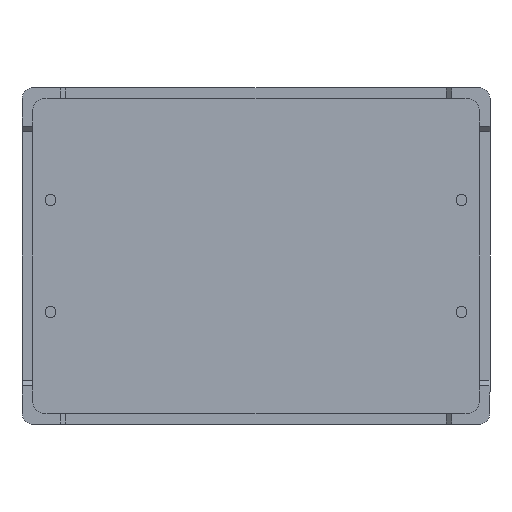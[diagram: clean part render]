
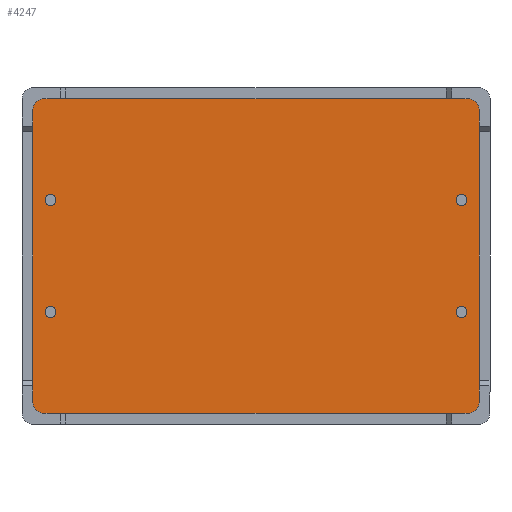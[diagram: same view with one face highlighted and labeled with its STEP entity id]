
A CAD part, front view. The second image highlights one B-rep face of the part: STEP entity #4247.
In plain terms, the highlighted planar face has unit normal (0, -1, 0).
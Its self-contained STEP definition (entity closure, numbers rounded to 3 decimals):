
#9 = VERTEX_POINT ( 'NONE', #1152 ) ;
#12 = EDGE_CURVE ( 'NONE', #3469, #3469, #1104, .T. ) ;
#70 = ORIENTED_EDGE ( 'NONE', *, *, #3678, .T. ) ;
#138 = DIRECTION ( 'NONE',  ( 0., -1., 0. ) ) ;
#208 = ORIENTED_EDGE ( 'NONE', *, *, #3375, .T. ) ;
#226 = CARTESIAN_POINT ( 'NONE',  ( 20.35, 1., -13.35 ) ) ;
#231 = VERTEX_POINT ( 'NONE', #2503 ) ;
#243 = DIRECTION ( 'NONE',  ( 1., 0., 0. ) ) ;
#284 = AXIS2_PLACEMENT_3D ( 'NONE', #704, #2988, #1042 ) ;
#303 = EDGE_CURVE ( 'NONE', #9, #9, #2831, .T. ) ;
#333 = DIRECTION ( 'NONE',  ( 0., -1., 0. ) ) ;
#389 = FACE_BOUND ( 'NONE', #2246, .T. ) ;
#442 = EDGE_CURVE ( 'NONE', #1611, #2284, #4063, .T. ) ;
#453 = DIRECTION ( 'NONE',  ( 0., 0., -1. ) ) ;
#464 = DIRECTION ( 'NONE',  ( 0., -1., 0. ) ) ;
#475 = CARTESIAN_POINT ( 'NONE',  ( 18.75, 1., -5.1 ) ) ;
#544 = AXIS2_PLACEMENT_3D ( 'NONE', #2290, #333, #2617 ) ;
#611 = DIRECTION ( 'NONE',  ( 0., -1., 0. ) ) ;
#614 = CIRCLE ( 'NONE', #544, 1. ) ;
#617 = VERTEX_POINT ( 'NONE', #1754 ) ;
#686 = AXIS2_PLACEMENT_3D ( 'NONE', #2864, #913, #3193 ) ;
#704 = CARTESIAN_POINT ( 'NONE',  ( -18.75, 1., 5.1 ) ) ;
#912 = ORIENTED_EDGE ( 'NONE', *, *, #3905, .F. ) ;
#913 = DIRECTION ( 'NONE',  ( 0., -1., 0. ) ) ;
#918 = CIRCLE ( 'NONE', #284, 0.5 ) ;
#981 = EDGE_CURVE ( 'NONE', #2641, #231, #1652, .T. ) ;
#1019 = ORIENTED_EDGE ( 'NONE', *, *, #2278, .T. ) ;
#1042 = DIRECTION ( 'NONE',  ( 0., 0., -1. ) ) ;
#1104 = CIRCLE ( 'NONE', #2806, 0.5 ) ;
#1105 = CARTESIAN_POINT ( 'NONE',  ( 19.35, 1., 14.35 ) ) ;
#1116 = ORIENTED_EDGE ( 'NONE', *, *, #3241, .T. ) ;
#1145 = DIRECTION ( 'NONE',  ( 0., 0., 1. ) ) ;
#1152 = CARTESIAN_POINT ( 'NONE',  ( 18.75, 1., 4.6 ) ) ;
#1203 = AXIS2_PLACEMENT_3D ( 'NONE', #2563, #611, #2895 ) ;
#1260 = CARTESIAN_POINT ( 'NONE',  ( -19.35, 1., 14.35 ) ) ;
#1345 = DIRECTION ( 'NONE',  ( 0., 0., -1. ) ) ;
#1423 = DIRECTION ( 'NONE',  ( 0., -1., 0. ) ) ;
#1479 = CIRCLE ( 'NONE', #4192, 1. ) ;
#1495 = CARTESIAN_POINT ( 'NONE',  ( -19.35, 1., -14.35 ) ) ;
#1564 = CARTESIAN_POINT ( 'NONE',  ( -20.35, 1., -14.35 ) ) ;
#1611 = VERTEX_POINT ( 'NONE', #1105 ) ;
#1629 = VERTEX_POINT ( 'NONE', #4089 ) ;
#1639 = EDGE_LOOP ( 'NONE', ( #2533 ) ) ;
#1643 = EDGE_LOOP ( 'NONE', ( #912 ) ) ;
#1652 = LINE ( 'NONE', #2959, #2509 ) ;
#1709 = DIRECTION ( 'NONE',  ( 0., -1., 0. ) ) ;
#1741 = EDGE_LOOP ( 'NONE', ( #3410 ) ) ;
#1749 = DIRECTION ( 'NONE',  ( 0., -1., 0. ) ) ;
#1754 = CARTESIAN_POINT ( 'NONE',  ( 20.35, 1., 13.35 ) ) ;
#1804 = CARTESIAN_POINT ( 'NONE',  ( -18.75, 1., -5.6 ) ) ;
#1980 = ORIENTED_EDGE ( 'NONE', *, *, #442, .T. ) ;
#2132 = FACE_BOUND ( 'NONE', #1741, .T. ) ;
#2145 = CARTESIAN_POINT ( 'NONE',  ( -18.75, 1., -5.1 ) ) ;
#2193 = LINE ( 'NONE', #3405, #2294 ) ;
#2198 = VERTEX_POINT ( 'NONE', #1495 ) ;
#2246 = EDGE_LOOP ( 'NONE', ( #4290 ) ) ;
#2278 = EDGE_CURVE ( 'NONE', #2198, #3716, #2657, .T. ) ;
#2284 = VERTEX_POINT ( 'NONE', #1260 ) ;
#2290 = CARTESIAN_POINT ( 'NONE',  ( -19.35, 1., 13.35 ) ) ;
#2294 = VECTOR ( 'NONE', #1145, 1000. ) ;
#2317 = VECTOR ( 'NONE', #3928, 1000. ) ;
#2469 = DIRECTION ( 'NONE',  ( 0., 0., -1. ) ) ;
#2485 = VERTEX_POINT ( 'NONE', #1804 ) ;
#2503 = CARTESIAN_POINT ( 'NONE',  ( -20.35, 1., -13.35 ) ) ;
#2509 = VECTOR ( 'NONE', #1345, 1000. ) ;
#2533 = ORIENTED_EDGE ( 'NONE', *, *, #303, .F. ) ;
#2563 = CARTESIAN_POINT ( 'NONE',  ( 18.75, 1., 5.1 ) ) ;
#2617 = DIRECTION ( 'NONE',  ( 0., 0., -1. ) ) ;
#2641 = VERTEX_POINT ( 'NONE', #4076 ) ;
#2657 = LINE ( 'NONE', #1564, #3640 ) ;
#2706 = PLANE ( 'NONE',  #3147 ) ;
#2736 = ORIENTED_EDGE ( 'NONE', *, *, #3463, .T. ) ;
#2806 = AXIS2_PLACEMENT_3D ( 'NONE', #475, #464, #453 ) ;
#2831 = CIRCLE ( 'NONE', #1203, 0.5 ) ;
#2849 = ORIENTED_EDGE ( 'NONE', *, *, #3021, .T. ) ;
#2857 = CIRCLE ( 'NONE', #686, 1. ) ;
#2864 = CARTESIAN_POINT ( 'NONE',  ( 19.35, 1., -13.35 ) ) ;
#2865 = VERTEX_POINT ( 'NONE', #226 ) ;
#2895 = DIRECTION ( 'NONE',  ( 0., 0., -1. ) ) ;
#2902 = FACE_OUTER_BOUND ( 'NONE', #3323, .T. ) ;
#2959 = CARTESIAN_POINT ( 'NONE',  ( -20.35, 1., 14.35 ) ) ;
#2988 = DIRECTION ( 'NONE',  ( 0., -1., 0. ) ) ;
#3019 = CARTESIAN_POINT ( 'NONE',  ( 19.35, 1., -14.35 ) ) ;
#3021 = EDGE_CURVE ( 'NONE', #2284, #2641, #614, .T. ) ;
#3147 = AXIS2_PLACEMENT_3D ( 'NONE', #3700, #1749, #4036 ) ;
#3193 = DIRECTION ( 'NONE',  ( 0., 0., -1. ) ) ;
#3229 = AXIS2_PLACEMENT_3D ( 'NONE', #2145, #138, #2469 ) ;
#3241 = EDGE_CURVE ( 'NONE', #617, #1611, #3368, .T. ) ;
#3323 = EDGE_LOOP ( 'NONE', ( #3517, #70, #1019, #2736, #208, #1116, #1980, #2849 ) ) ;
#3368 = CIRCLE ( 'NONE', #3389, 1. ) ;
#3375 = EDGE_CURVE ( 'NONE', #2865, #617, #2193, .T. ) ;
#3376 = CARTESIAN_POINT ( 'NONE',  ( 19.35, 1., 13.35 ) ) ;
#3389 = AXIS2_PLACEMENT_3D ( 'NONE', #3376, #1423, #3708 ) ;
#3405 = CARTESIAN_POINT ( 'NONE',  ( 20.35, 1., -14.35 ) ) ;
#3410 = ORIENTED_EDGE ( 'NONE', *, *, #12, .F. ) ;
#3463 = EDGE_CURVE ( 'NONE', #3716, #2865, #2857, .T. ) ;
#3469 = VERTEX_POINT ( 'NONE', #4077 ) ;
#3517 = ORIENTED_EDGE ( 'NONE', *, *, #981, .T. ) ;
#3600 = CARTESIAN_POINT ( 'NONE',  ( 20.35, 1., 14.35 ) ) ;
#3640 = VECTOR ( 'NONE', #243, 1000. ) ;
#3664 = CARTESIAN_POINT ( 'NONE',  ( -19.35, 1., -13.35 ) ) ;
#3678 = EDGE_CURVE ( 'NONE', #231, #2198, #1479, .T. ) ;
#3700 = CARTESIAN_POINT ( 'NONE',  ( 0., 1., 0. ) ) ;
#3708 = DIRECTION ( 'NONE',  ( 0., 0., -1. ) ) ;
#3716 = VERTEX_POINT ( 'NONE', #3019 ) ;
#3780 = FACE_BOUND ( 'NONE', #1643, .T. ) ;
#3880 = FACE_BOUND ( 'NONE', #1639, .T. ) ;
#3905 = EDGE_CURVE ( 'NONE', #2485, #2485, #4039, .T. ) ;
#3928 = DIRECTION ( 'NONE',  ( -1., 0., 0. ) ) ;
#4000 = DIRECTION ( 'NONE',  ( 0., 0., -1. ) ) ;
#4036 = DIRECTION ( 'NONE',  ( 0., 0., -1. ) ) ;
#4039 = CIRCLE ( 'NONE', #3229, 0.5 ) ;
#4063 = LINE ( 'NONE', #3600, #2317 ) ;
#4076 = CARTESIAN_POINT ( 'NONE',  ( -20.35, 1., 13.35 ) ) ;
#4077 = CARTESIAN_POINT ( 'NONE',  ( 18.75, 1., -5.6 ) ) ;
#4089 = CARTESIAN_POINT ( 'NONE',  ( -18.75, 1., 4.6 ) ) ;
#4125 = EDGE_CURVE ( 'NONE', #1629, #1629, #918, .T. ) ;
#4192 = AXIS2_PLACEMENT_3D ( 'NONE', #3664, #1709, #4000 ) ;
#4247 = ADVANCED_FACE ( 'NONE', ( #3880, #2132, #389, #3780, #2902 ), #2706, .T. ) ;
#4290 = ORIENTED_EDGE ( 'NONE', *, *, #4125, .F. ) ;
